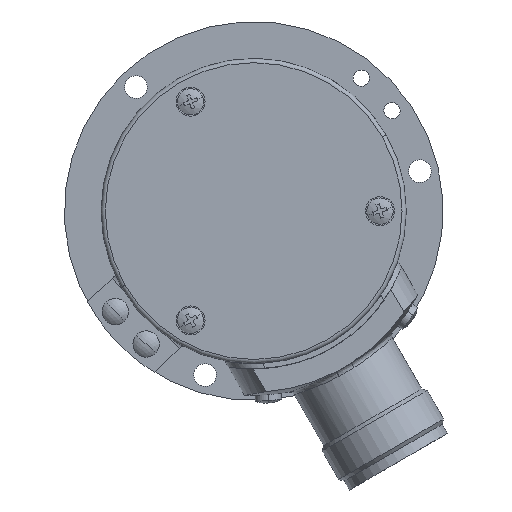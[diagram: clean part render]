
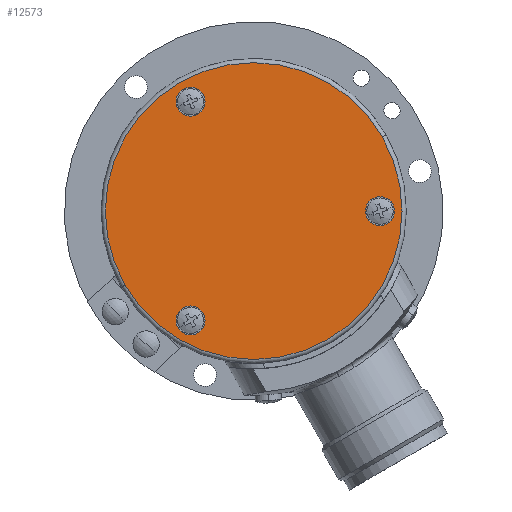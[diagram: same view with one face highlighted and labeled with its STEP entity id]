
A CAD part, left-side view. The second image highlights one B-rep face of the part: STEP entity #12573.
In plain terms, the highlighted planar face has unit normal (-1, 0, 0).
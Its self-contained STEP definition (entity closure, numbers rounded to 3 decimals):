
#1147 = VERTEX_POINT ( 'NONE', #12228 ) ;
#1156 = EDGE_CURVE ( 'NONE', #1203, #1157, #12324, .T. ) ;
#1157 = VERTEX_POINT ( 'NONE', #12319 ) ;
#1201 = EDGE_CURVE ( 'NONE', #6623, #1147, #12539, .T. ) ;
#1203 = VERTEX_POINT ( 'NONE', #12534 ) ;
#1696 = VERTEX_POINT ( 'NONE', #14180 ) ;
#1697 = VERTEX_POINT ( 'NONE', #14179 ) ;
#1767 = EDGE_CURVE ( 'NONE', #1696, #1697, #14339, .T. ) ;
#4204 = VERTEX_POINT ( 'NONE', #22595 ) ;
#4242 = EDGE_CURVE ( 'NONE', #4204, #4250, #22697, .T. ) ;
#4250 = VERTEX_POINT ( 'NONE', #22737 ) ;
#6623 = VERTEX_POINT ( 'NONE', #31321 ) ;
#12228 = CARTESIAN_POINT ( 'NONE',  ( -34.5, 14.382, -22.16 ) ) ;
#12319 = CARTESIAN_POINT ( 'NONE',  ( -34.5, 14.382, 19.41 ) ) ;
#12320 = DIRECTION ( 'NONE',  ( 0., 0.866, -0.5 ) ) ;
#12321 = DIRECTION ( 'NONE',  ( -1., 0., 0. ) ) ;
#12322 = CARTESIAN_POINT ( 'NONE',  ( -34.5, 12., 20.785 ) ) ;
#12323 = AXIS2_PLACEMENT_3D ( 'NONE', #12322, #12321, #12320 ) ;
#12324 = CIRCLE ( 'NONE', #12323, 2.75 ) ;
#12534 = CARTESIAN_POINT ( 'NONE',  ( -34.5, 9.618, 22.16 ) ) ;
#12535 = DIRECTION ( 'NONE',  ( 0., 0.866, -0.5 ) ) ;
#12536 = DIRECTION ( 'NONE',  ( -1., 0., 0. ) ) ;
#12537 = CARTESIAN_POINT ( 'NONE',  ( -34.5, 12., -20.785 ) ) ;
#12538 = AXIS2_PLACEMENT_3D ( 'NONE', #12537, #12536, #12535 ) ;
#12540 = EDGE_LOOP ( 'NONE', ( #45988, #45965 ) ) ;
#12539 = CIRCLE ( 'NONE', #12538, 2.75 ) ;
#12573 = ADVANCED_FACE ( 'NONE', ( #38169, #38168, #38167, #38166 ), #38147, .F. ) ;
#14179 = CARTESIAN_POINT ( 'NONE',  ( -34.5, -24.422, 14.1 ) ) ;
#14180 = CARTESIAN_POINT ( 'NONE',  ( -34.5, 24.422, -14.1 ) ) ;
#14335 = DIRECTION ( 'NONE',  ( 0., -0.866, 0.5 ) ) ;
#14336 = DIRECTION ( 'NONE',  ( -1., 0., 0. ) ) ;
#14337 = CARTESIAN_POINT ( 'NONE',  ( -34.5, 0., 0. ) ) ;
#14338 = AXIS2_PLACEMENT_3D ( 'NONE', #14337, #14336, #14335 ) ;
#14339 = CIRCLE ( 'NONE', #14338, 28.2 ) ;
#22595 = CARTESIAN_POINT ( 'NONE',  ( -34.5, -26.382, 1.375 ) ) ;
#22689 = DIRECTION ( 'NONE',  ( 0., 0.866, -0.5 ) ) ;
#22690 = DIRECTION ( 'NONE',  ( -1., 0., 0. ) ) ;
#22691 = CARTESIAN_POINT ( 'NONE',  ( -34.5, -24., 0. ) ) ;
#22692 = AXIS2_PLACEMENT_3D ( 'NONE', #22691, #22690, #22689 ) ;
#22697 = CIRCLE ( 'NONE', #22692, 2.75 ) ;
#22737 = CARTESIAN_POINT ( 'NONE',  ( -34.5, -21.618, -1.375 ) ) ;
#26749 = EDGE_CURVE ( 'NONE', #1147, #6623, #40616, .T. ) ;
#31321 = CARTESIAN_POINT ( 'NONE',  ( -34.5, 9.618, -19.41 ) ) ;
#37912 = AXIS2_PLACEMENT_3D ( 'NONE', #38207, #38206, #38205 ) ;
#38147 = PLANE ( 'NONE',  #37912 ) ;
#38166 = FACE_OUTER_BOUND ( 'NONE', #45947, .T. ) ;
#38167 = FACE_BOUND ( 'NONE', #45976, .T. ) ;
#38168 = FACE_BOUND ( 'NONE', #45844, .T. ) ;
#38169 = FACE_BOUND ( 'NONE', #12540, .T. ) ;
#38205 = DIRECTION ( 'NONE',  ( 0., -0.866, 0.5 ) ) ;
#38206 = DIRECTION ( 'NONE',  ( 1., 0., 0. ) ) ;
#38207 = CARTESIAN_POINT ( 'NONE',  ( -34.5, -14.5, -25.115 ) ) ;
#40612 = DIRECTION ( 'NONE',  ( 0., 0.866, -0.5 ) ) ;
#40613 = DIRECTION ( 'NONE',  ( -1., 0., 0. ) ) ;
#40614 = CARTESIAN_POINT ( 'NONE',  ( -34.5, 12., -20.785 ) ) ;
#40615 = AXIS2_PLACEMENT_3D ( 'NONE', #40614, #40613, #40612 ) ;
#40616 = CIRCLE ( 'NONE', #40615, 2.75 ) ;
#45057 = DIRECTION ( 'NONE',  ( 0., 0.866, -0.5 ) ) ;
#45058 = DIRECTION ( 'NONE',  ( -1., 0., 0. ) ) ;
#45059 = CARTESIAN_POINT ( 'NONE',  ( -34.5, 12., 20.785 ) ) ;
#45060 = AXIS2_PLACEMENT_3D ( 'NONE', #45059, #45058, #45057 ) ;
#45061 = CIRCLE ( 'NONE', #45060, 2.75 ) ;
#45067 = DIRECTION ( 'NONE',  ( 0., -0.866, 0.5 ) ) ;
#45068 = DIRECTION ( 'NONE',  ( -1., 0., 0. ) ) ;
#45069 = CARTESIAN_POINT ( 'NONE',  ( -34.5, 0., 0. ) ) ;
#45070 = AXIS2_PLACEMENT_3D ( 'NONE', #45069, #45068, #45067 ) ;
#45071 = CIRCLE ( 'NONE', #45070, 28.2 ) ;
#45195 = DIRECTION ( 'NONE',  ( 0., 0.866, -0.5 ) ) ;
#45196 = DIRECTION ( 'NONE',  ( -1., 0., 0. ) ) ;
#45197 = CARTESIAN_POINT ( 'NONE',  ( -34.5, -24., 0. ) ) ;
#45198 = AXIS2_PLACEMENT_3D ( 'NONE', #45197, #45196, #45195 ) ;
#45203 = CIRCLE ( 'NONE', #45198, 2.75 ) ;
#45844 = EDGE_LOOP ( 'NONE', ( #45984, #45921 ) ) ;
#45880 = EDGE_CURVE ( 'NONE', #1697, #1696, #45071, .T. ) ;
#45887 = EDGE_CURVE ( 'NONE', #1157, #1203, #45061, .T. ) ;
#45903 = ORIENTED_EDGE ( 'NONE', *, *, #45887, .F. ) ;
#45912 = ORIENTED_EDGE ( 'NONE', *, *, #45880, .T. ) ;
#45921 = ORIENTED_EDGE ( 'NONE', *, *, #1201, .F. ) ;
#45933 = EDGE_CURVE ( 'NONE', #4250, #4204, #45203, .T. ) ;
#45947 = EDGE_LOOP ( 'NONE', ( #45912, #45959 ) ) ;
#45959 = ORIENTED_EDGE ( 'NONE', *, *, #1767, .T. ) ;
#45960 = ORIENTED_EDGE ( 'NONE', *, *, #1156, .F. ) ;
#45965 = ORIENTED_EDGE ( 'NONE', *, *, #4242, .F. ) ;
#45976 = EDGE_LOOP ( 'NONE', ( #45903, #45960 ) ) ;
#45984 = ORIENTED_EDGE ( 'NONE', *, *, #26749, .F. ) ;
#45988 = ORIENTED_EDGE ( 'NONE', *, *, #45933, .F. ) ;
